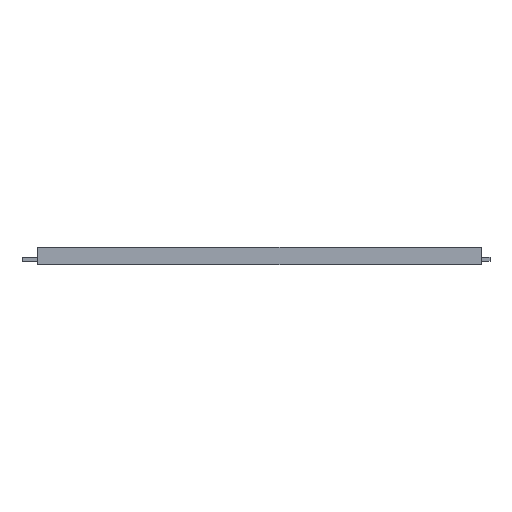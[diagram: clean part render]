
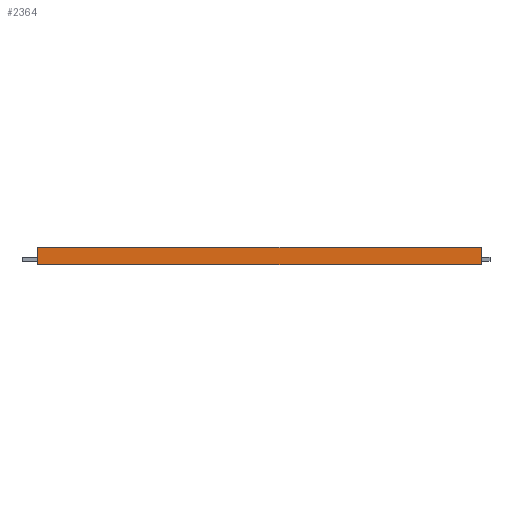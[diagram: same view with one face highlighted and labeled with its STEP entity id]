
A CAD part, left-side view. The second image highlights one B-rep face of the part: STEP entity #2364.
In plain terms, the highlighted planar face has unit normal (-1, 0, 0).
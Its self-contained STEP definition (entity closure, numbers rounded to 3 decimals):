
#932 = PLANE('',#933);
#933 = AXIS2_PLACEMENT_3D('',#934,#935,#936);
#934 = CARTESIAN_POINT('',(-64.4,8.6,-4.35));
#935 = DIRECTION('',(0.,1.,0.));
#936 = DIRECTION('',(0.,0.,1.));
#988 = PLANE('',#989);
#989 = AXIS2_PLACEMENT_3D('',#990,#991,#992);
#990 = CARTESIAN_POINT('',(-64.4,-17.,-4.35));
#991 = DIRECTION('',(0.,1.,0.));
#992 = DIRECTION('',(0.,0.,1.));
#1882 = VERTEX_POINT('',#1883);
#1883 = CARTESIAN_POINT('',(-64.4,-17.,-4.55));
#1897 = PLANE('',#1898);
#1898 = AXIS2_PLACEMENT_3D('',#1899,#1900,#1901);
#1899 = CARTESIAN_POINT('',(-64.4,-17.,-4.55));
#1900 = DIRECTION('',(0.,0.,1.));
#1901 = DIRECTION('',(1.,0.,0.));
#1909 = EDGE_CURVE('',#1910,#1882,#1912,.T.);
#1910 = VERTEX_POINT('',#1911);
#1911 = CARTESIAN_POINT('',(-64.4,-17.,-3.55));
#1912 = SURFACE_CURVE('',#1913,(#1917,#1924),.PCURVE_S1.);
#1913 = LINE('',#1914,#1915);
#1914 = CARTESIAN_POINT('',(-64.4,-17.,-3.55));
#1915 = VECTOR('',#1916,1.);
#1916 = DIRECTION('',(0.,0.,-1.));
#1917 = PCURVE('',#988,#1918);
#1918 = DEFINITIONAL_REPRESENTATION('',(#1919),#1923);
#1919 = LINE('',#1920,#1921);
#1920 = CARTESIAN_POINT('',(0.8,0.));
#1921 = VECTOR('',#1922,1.);
#1922 = DIRECTION('',(-1.,0.));
#1923 = ( GEOMETRIC_REPRESENTATION_CONTEXT(2) 
PARAMETRIC_REPRESENTATION_CONTEXT() REPRESENTATION_CONTEXT('2D SPACE',''
  ) );
#1924 = PCURVE('',#1925,#1930);
#1925 = PLANE('',#1926);
#1926 = AXIS2_PLACEMENT_3D('',#1927,#1928,#1929);
#1927 = CARTESIAN_POINT('',(-64.4,-17.,-4.35));
#1928 = DIRECTION('',(1.,0.,0.));
#1929 = DIRECTION('',(0.,0.,1.));
#1930 = DEFINITIONAL_REPRESENTATION('',(#1931),#1935);
#1931 = LINE('',#1932,#1933);
#1932 = CARTESIAN_POINT('',(0.8,0.));
#1933 = VECTOR('',#1934,1.);
#1934 = DIRECTION('',(-1.,0.));
#1935 = ( GEOMETRIC_REPRESENTATION_CONTEXT(2) 
PARAMETRIC_REPRESENTATION_CONTEXT() REPRESENTATION_CONTEXT('2D SPACE',''
  ) );
#1953 = PLANE('',#1954);
#1954 = AXIS2_PLACEMENT_3D('',#1955,#1956,#1957);
#1955 = CARTESIAN_POINT('',(-64.4,-17.,-3.55));
#1956 = DIRECTION('',(0.,0.,1.));
#1957 = DIRECTION('',(1.,0.,0.));
#2128 = VERTEX_POINT('',#2129);
#2129 = CARTESIAN_POINT('',(-64.4,8.6,-4.55));
#2150 = EDGE_CURVE('',#2128,#2151,#2153,.T.);
#2151 = VERTEX_POINT('',#2152);
#2152 = CARTESIAN_POINT('',(-64.4,8.6,-3.55));
#2153 = SURFACE_CURVE('',#2154,(#2158,#2165),.PCURVE_S1.);
#2154 = LINE('',#2155,#2156);
#2155 = CARTESIAN_POINT('',(-64.4,8.6,-4.55));
#2156 = VECTOR('',#2157,1.);
#2157 = DIRECTION('',(0.,0.,1.));
#2158 = PCURVE('',#932,#2159);
#2159 = DEFINITIONAL_REPRESENTATION('',(#2160),#2164);
#2160 = LINE('',#2161,#2162);
#2161 = CARTESIAN_POINT('',(-0.2,0.));
#2162 = VECTOR('',#2163,1.);
#2163 = DIRECTION('',(1.,0.));
#2164 = ( GEOMETRIC_REPRESENTATION_CONTEXT(2) 
PARAMETRIC_REPRESENTATION_CONTEXT() REPRESENTATION_CONTEXT('2D SPACE',''
  ) );
#2165 = PCURVE('',#1925,#2166);
#2166 = DEFINITIONAL_REPRESENTATION('',(#2167),#2171);
#2167 = LINE('',#2168,#2169);
#2168 = CARTESIAN_POINT('',(-0.2,-25.6));
#2169 = VECTOR('',#2170,1.);
#2170 = DIRECTION('',(1.,0.));
#2171 = ( GEOMETRIC_REPRESENTATION_CONTEXT(2) 
PARAMETRIC_REPRESENTATION_CONTEXT() REPRESENTATION_CONTEXT('2D SPACE',''
  ) );
#2364 = ADVANCED_FACE('',(#2365),#1925,.F.);
#2365 = FACE_BOUND('',#2366,.F.);
#2366 = EDGE_LOOP('',(#2367,#2388,#2389,#2410));
#2367 = ORIENTED_EDGE('',*,*,#2368,.T.);
#2368 = EDGE_CURVE('',#1882,#2128,#2369,.T.);
#2369 = SURFACE_CURVE('',#2370,(#2374,#2381),.PCURVE_S1.);
#2370 = LINE('',#2371,#2372);
#2371 = CARTESIAN_POINT('',(-64.4,-17.,-4.55));
#2372 = VECTOR('',#2373,1.);
#2373 = DIRECTION('',(0.,1.,0.));
#2374 = PCURVE('',#1925,#2375);
#2375 = DEFINITIONAL_REPRESENTATION('',(#2376),#2380);
#2376 = LINE('',#2377,#2378);
#2377 = CARTESIAN_POINT('',(-0.2,0.));
#2378 = VECTOR('',#2379,1.);
#2379 = DIRECTION('',(0.,-1.));
#2380 = ( GEOMETRIC_REPRESENTATION_CONTEXT(2) 
PARAMETRIC_REPRESENTATION_CONTEXT() REPRESENTATION_CONTEXT('2D SPACE',''
  ) );
#2381 = PCURVE('',#1897,#2382);
#2382 = DEFINITIONAL_REPRESENTATION('',(#2383),#2387);
#2383 = LINE('',#2384,#2385);
#2384 = CARTESIAN_POINT('',(0.,0.));
#2385 = VECTOR('',#2386,1.);
#2386 = DIRECTION('',(0.,1.));
#2387 = ( GEOMETRIC_REPRESENTATION_CONTEXT(2) 
PARAMETRIC_REPRESENTATION_CONTEXT() REPRESENTATION_CONTEXT('2D SPACE',''
  ) );
#2388 = ORIENTED_EDGE('',*,*,#2150,.T.);
#2389 = ORIENTED_EDGE('',*,*,#2390,.F.);
#2390 = EDGE_CURVE('',#1910,#2151,#2391,.T.);
#2391 = SURFACE_CURVE('',#2392,(#2396,#2403),.PCURVE_S1.);
#2392 = LINE('',#2393,#2394);
#2393 = CARTESIAN_POINT('',(-64.4,-17.,-3.55));
#2394 = VECTOR('',#2395,1.);
#2395 = DIRECTION('',(0.,1.,0.));
#2396 = PCURVE('',#1925,#2397);
#2397 = DEFINITIONAL_REPRESENTATION('',(#2398),#2402);
#2398 = LINE('',#2399,#2400);
#2399 = CARTESIAN_POINT('',(0.8,0.));
#2400 = VECTOR('',#2401,1.);
#2401 = DIRECTION('',(0.,-1.));
#2402 = ( GEOMETRIC_REPRESENTATION_CONTEXT(2) 
PARAMETRIC_REPRESENTATION_CONTEXT() REPRESENTATION_CONTEXT('2D SPACE',''
  ) );
#2403 = PCURVE('',#1953,#2404);
#2404 = DEFINITIONAL_REPRESENTATION('',(#2405),#2409);
#2405 = LINE('',#2406,#2407);
#2406 = CARTESIAN_POINT('',(0.,0.));
#2407 = VECTOR('',#2408,1.);
#2408 = DIRECTION('',(0.,1.));
#2409 = ( GEOMETRIC_REPRESENTATION_CONTEXT(2) 
PARAMETRIC_REPRESENTATION_CONTEXT() REPRESENTATION_CONTEXT('2D SPACE',''
  ) );
#2410 = ORIENTED_EDGE('',*,*,#1909,.T.);
